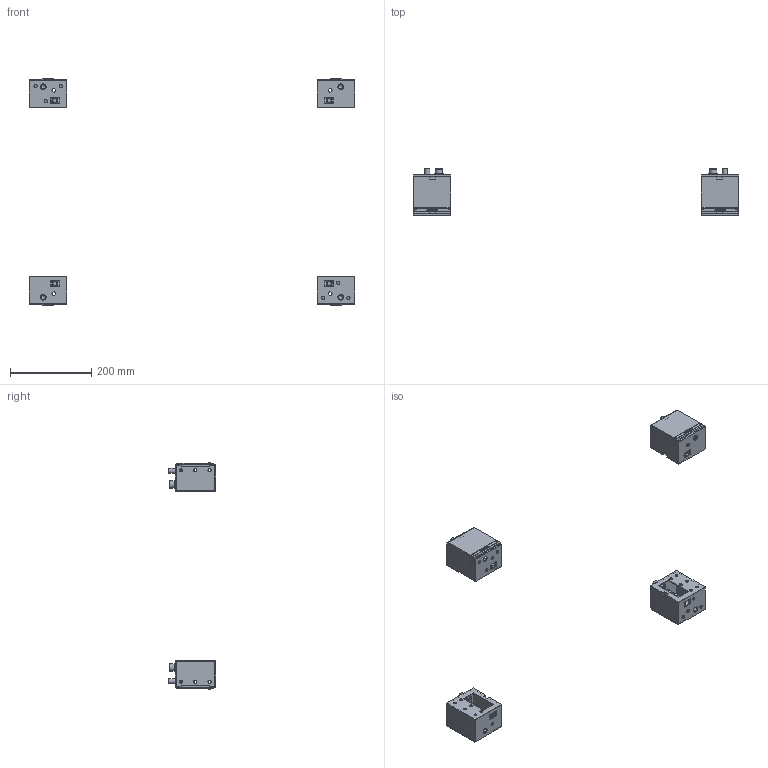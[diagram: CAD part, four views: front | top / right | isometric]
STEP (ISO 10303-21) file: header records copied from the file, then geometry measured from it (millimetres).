
FILE_DESCRIPTION(('Open CASCADE Model'),'2;1');
FILE_NAME('Open CASCADE Shape Model','2025-02-12T15:54:58',('Author'),( 'Open CASCADE'),'Open CASCADE STEP processor 7.8','Open CASCADE 7.8' ,'Unknown');
FILE_SCHEMA(('AUTOMOTIVE_DESIGN { 1 0 10303 214 1 1 1 1 }'));
Length unit declared in the file: millimetre
Products named in the file (6): Compound1; Solid1; Solid2; Solid3; Solid4; Solid5
Assembly tree (28 placements, depth 2):
  Compound1
    Solid1  x4
    Solid2  x4
    Solid3  x4
    Solid4  x8
    Solid5  x8
Bounding box: 800 x 116.5 x 556.4 mm (x, y, z)
Volume: 458882.1 mm3; surface area: 377544.7 mm2
Topology: 32 solids, 32 shells, 2592 faces, 7292 edges, 4576 vertices
Faces by surface type: plane 1400, cylinder 568, bspline 452, cone 88, revolution 64, torus 20
Full cylindrical faces by diameter (mm): 7 x36, 8 x24, 9 x8, 10.5 x4, 12 x8, 12.55 x4, 13 x8, 14 x8, 18 x8, 20.5 x8
Entity records: 18993 total; most frequent: CARTESIAN_POINT 5145, ORIENTED_EDGE 3034, DIRECTION 2522, EDGE_CURVE 1517, VERTEX_POINT 987, LINE 960, VECTOR 960, AXIS2_PLACEMENT_3D 773
